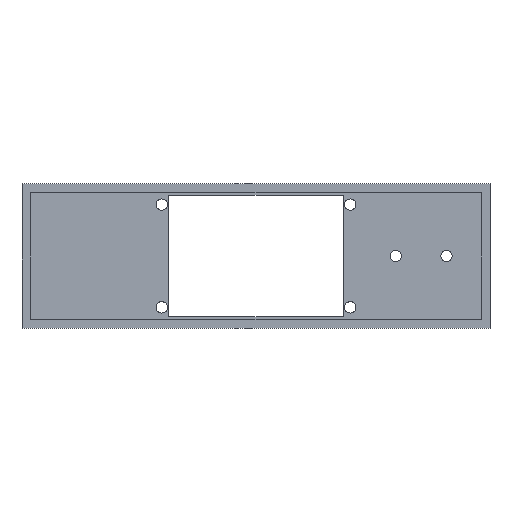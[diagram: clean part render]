
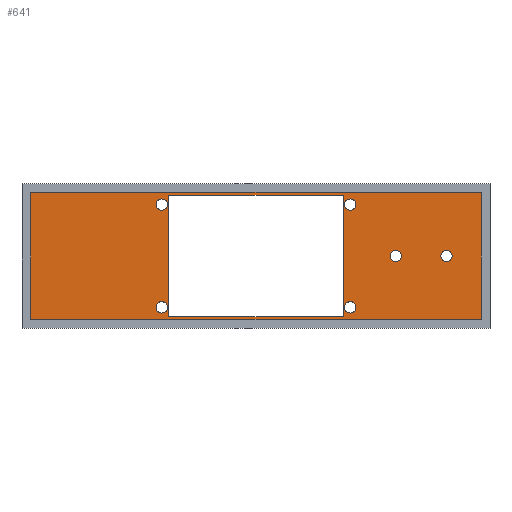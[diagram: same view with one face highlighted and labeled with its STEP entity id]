
A CAD part, top view. The second image highlights one B-rep face of the part: STEP entity #641.
In plain terms, the highlighted planar face has unit normal (0, 0, 1).
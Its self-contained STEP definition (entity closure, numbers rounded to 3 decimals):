
#305 = VERTEX_POINT('',#306);
#306 = CARTESIAN_POINT('',(3.,3.,2.));
#312 = EDGE_CURVE('',#305,#313,#315,.T.);
#313 = VERTEX_POINT('',#314);
#314 = CARTESIAN_POINT('',(161.,3.,2.));
#315 = LINE('',#316,#317);
#316 = CARTESIAN_POINT('',(3.,3.,2.));
#317 = VECTOR('',#318,1.);
#318 = DIRECTION('',(1.,0.,-0.));
#337 = VERTEX_POINT('',#338);
#338 = CARTESIAN_POINT('',(161.,47.5,2.));
#344 = EDGE_CURVE('',#313,#337,#345,.T.);
#345 = LINE('',#346,#347);
#346 = CARTESIAN_POINT('',(161.,3.,2.));
#347 = VECTOR('',#348,1.);
#348 = DIRECTION('',(-0.,1.,0.));
#360 = VERTEX_POINT('',#361);
#361 = CARTESIAN_POINT('',(3.,47.5,2.));
#367 = EDGE_CURVE('',#360,#337,#368,.T.);
#368 = LINE('',#369,#370);
#369 = CARTESIAN_POINT('',(3.,47.5,2.));
#370 = VECTOR('',#371,1.);
#371 = DIRECTION('',(1.,0.,-0.));
#385 = EDGE_CURVE('',#305,#360,#386,.T.);
#386 = LINE('',#387,#388);
#387 = CARTESIAN_POINT('',(3.,3.,2.));
#388 = VECTOR('',#389,1.);
#389 = DIRECTION('',(-0.,1.,0.));
#399 = EDGE_CURVE('',#400,#400,#402,.T.);
#400 = VERTEX_POINT('',#401);
#401 = CARTESIAN_POINT('',(51.,7.25,2.));
#402 = CIRCLE('',#403,2.);
#403 = AXIS2_PLACEMENT_3D('',#404,#405,#406);
#404 = CARTESIAN_POINT('',(49.,7.25,2.));
#405 = DIRECTION('',(0.,0.,1.));
#406 = DIRECTION('',(1.,0.,-0.));
#424 = EDGE_CURVE('',#425,#425,#427,.T.);
#425 = VERTEX_POINT('',#426);
#426 = CARTESIAN_POINT('',(117.,7.25,2.));
#427 = CIRCLE('',#428,2.);
#428 = AXIS2_PLACEMENT_3D('',#429,#430,#431);
#429 = CARTESIAN_POINT('',(115.,7.25,2.));
#430 = DIRECTION('',(0.,0.,1.));
#431 = DIRECTION('',(1.,0.,-0.));
#450 = VERTEX_POINT('',#451);
#451 = CARTESIAN_POINT('',(112.5,4.,2.));
#459 = VERTEX_POINT('',#460);
#460 = CARTESIAN_POINT('',(51.5,4.,2.));
#466 = EDGE_CURVE('',#450,#459,#467,.T.);
#467 = LINE('',#468,#469);
#468 = CARTESIAN_POINT('',(27.25,4.,2.));
#469 = VECTOR('',#470,1.);
#470 = DIRECTION('',(-1.,-0.,0.));
#483 = VERTEX_POINT('',#484);
#484 = CARTESIAN_POINT('',(112.5,46.5,2.));
#490 = EDGE_CURVE('',#450,#483,#491,.T.);
#491 = LINE('',#492,#493);
#492 = CARTESIAN_POINT('',(112.5,3.5,2.));
#493 = VECTOR('',#494,1.);
#494 = DIRECTION('',(-0.,1.,0.));
#507 = VERTEX_POINT('',#508);
#508 = CARTESIAN_POINT('',(51.5,46.5,2.));
#514 = EDGE_CURVE('',#459,#507,#515,.T.);
#515 = LINE('',#516,#517);
#516 = CARTESIAN_POINT('',(51.5,3.5,2.));
#517 = VECTOR('',#518,1.);
#518 = DIRECTION('',(-0.,1.,0.));
#531 = EDGE_CURVE('',#483,#507,#532,.T.);
#532 = LINE('',#533,#534);
#533 = CARTESIAN_POINT('',(27.25,46.5,2.));
#534 = VECTOR('',#535,1.);
#535 = DIRECTION('',(-1.,-0.,0.));
#545 = EDGE_CURVE('',#546,#546,#548,.T.);
#546 = VERTEX_POINT('',#547);
#547 = CARTESIAN_POINT('',(51.,43.25,2.));
#548 = CIRCLE('',#549,2.);
#549 = AXIS2_PLACEMENT_3D('',#550,#551,#552);
#550 = CARTESIAN_POINT('',(49.,43.25,2.));
#551 = DIRECTION('',(0.,0.,1.));
#552 = DIRECTION('',(1.,0.,-0.));
#570 = EDGE_CURVE('',#571,#571,#573,.T.);
#571 = VERTEX_POINT('',#572);
#572 = CARTESIAN_POINT('',(133.,25.25,2.));
#573 = CIRCLE('',#574,2.);
#574 = AXIS2_PLACEMENT_3D('',#575,#576,#577);
#575 = CARTESIAN_POINT('',(131.,25.25,2.));
#576 = DIRECTION('',(0.,0.,1.));
#577 = DIRECTION('',(1.,0.,-0.));
#595 = EDGE_CURVE('',#596,#596,#598,.T.);
#596 = VERTEX_POINT('',#597);
#597 = CARTESIAN_POINT('',(150.75,25.25,2.));
#598 = CIRCLE('',#599,2.);
#599 = AXIS2_PLACEMENT_3D('',#600,#601,#602);
#600 = CARTESIAN_POINT('',(148.75,25.25,2.));
#601 = DIRECTION('',(0.,0.,1.));
#602 = DIRECTION('',(1.,0.,-0.));
#620 = EDGE_CURVE('',#621,#621,#623,.T.);
#621 = VERTEX_POINT('',#622);
#622 = CARTESIAN_POINT('',(117.,43.25,2.));
#623 = CIRCLE('',#624,2.);
#624 = AXIS2_PLACEMENT_3D('',#625,#626,#627);
#625 = CARTESIAN_POINT('',(115.,43.25,2.));
#626 = DIRECTION('',(0.,0.,1.));
#627 = DIRECTION('',(1.,0.,-0.));
#641 = ADVANCED_FACE('',(#642,#648,#651,#654,#660,#663,#666,#669),#672,
  .T.);
#642 = FACE_BOUND('',#643,.T.);
#643 = EDGE_LOOP('',(#644,#645,#646,#647));
#644 = ORIENTED_EDGE('',*,*,#385,.F.);
#645 = ORIENTED_EDGE('',*,*,#312,.T.);
#646 = ORIENTED_EDGE('',*,*,#344,.T.);
#647 = ORIENTED_EDGE('',*,*,#367,.F.);
#648 = FACE_BOUND('',#649,.T.);
#649 = EDGE_LOOP('',(#650));
#650 = ORIENTED_EDGE('',*,*,#399,.F.);
#651 = FACE_BOUND('',#652,.T.);
#652 = EDGE_LOOP('',(#653));
#653 = ORIENTED_EDGE('',*,*,#424,.F.);
#654 = FACE_BOUND('',#655,.T.);
#655 = EDGE_LOOP('',(#656,#657,#658,#659));
#656 = ORIENTED_EDGE('',*,*,#466,.T.);
#657 = ORIENTED_EDGE('',*,*,#514,.T.);
#658 = ORIENTED_EDGE('',*,*,#531,.F.);
#659 = ORIENTED_EDGE('',*,*,#490,.F.);
#660 = FACE_BOUND('',#661,.T.);
#661 = EDGE_LOOP('',(#662));
#662 = ORIENTED_EDGE('',*,*,#545,.F.);
#663 = FACE_BOUND('',#664,.T.);
#664 = EDGE_LOOP('',(#665));
#665 = ORIENTED_EDGE('',*,*,#570,.F.);
#666 = FACE_BOUND('',#667,.T.);
#667 = EDGE_LOOP('',(#668));
#668 = ORIENTED_EDGE('',*,*,#595,.F.);
#669 = FACE_BOUND('',#670,.T.);
#670 = EDGE_LOOP('',(#671));
#671 = ORIENTED_EDGE('',*,*,#620,.F.);
#672 = PLANE('',#673);
#673 = AXIS2_PLACEMENT_3D('',#674,#675,#676);
#674 = CARTESIAN_POINT('',(3.,3.,2.));
#675 = DIRECTION('',(0.,0.,1.));
#676 = DIRECTION('',(1.,0.,-0.));
